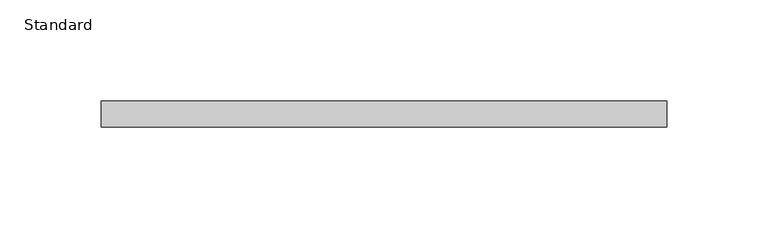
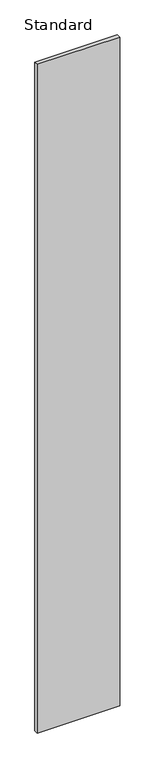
"""IFC4 building model written with IfcOpenShell, lengths in millimetres: furniture geometry, X_Partition-Compact Laminate-Duracube-Rectangular : Standard."""

from ifc_helpers import new_model, si_unit, origin, origin_with_axes, place, context, project, spatial, polyline, outline, extrude, source, transform, mapped, element, save


def standard_539b4371(model_context):
    return source(origin(), model_context, "Body", "SweptSolid", [
        extrude(outline(polyline([(184.7003264, 0.0), (184.7003264, -13.0), (-95.2996736, -13.0), (-95.2996736, 0.0), (184.7003264, 0.0)])), origin_with_axes(), (0.0, 0.0, 1.0), 2398.0),
    ])


if __name__ == "__main__":
    model = new_model("IFC4")
    model_context = context("Model", 3, world=origin())
    ifc_project = project(units=[si_unit("LENGTHUNIT", "METRE", prefix="MILLI")], contexts=[model_context])
    site = spatial("IfcSite", under=ifc_project)
    building = spatial("IfcBuilding", under=site)
    placement = place(None, origin())
    standard_shape = standard_539b4371(model_context)
    element("IfcFurniture", 1, ObjectType="X_Partition-Compact Laminate-Duracube-Rectangular : Standard", at=placement, inside=building, context=model_context, shape_type="MappedRepresentation", body=[
        mapped(standard_shape, transform((0.0, 0.0, 0.0), x_axis=(1.0, 0.0, 0.0), y_axis=(0.0, 1.0, 0.0), z_axis=(0.0, 0.0, 1.0))),
    ])
    save(model, "model.ifc")
